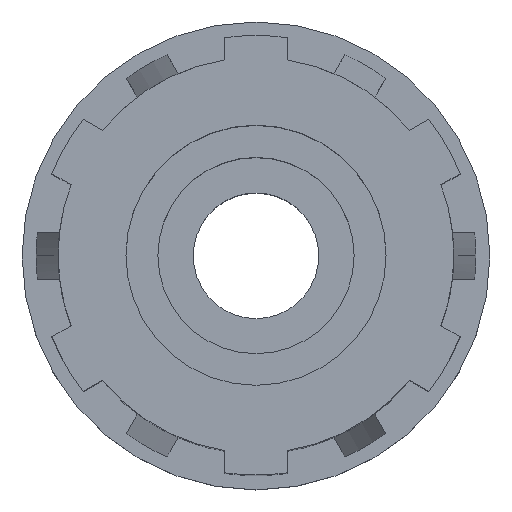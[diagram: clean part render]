
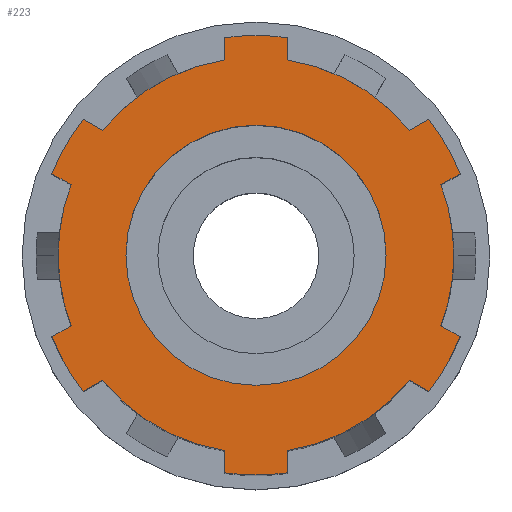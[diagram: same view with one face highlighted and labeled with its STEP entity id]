
A CAD part, top view. The second image highlights one B-rep face of the part: STEP entity #223.
In plain terms, the highlighted planar face has unit normal (0, 0, 1).
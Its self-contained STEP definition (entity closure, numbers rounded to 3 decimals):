
#223=ADVANCED_FACE('0:35',(#470,#471),#472,.T.);
#470=FACE_BOUND('',#761,.T.);
#471=FACE_OUTER_BOUND('',#762,.T.);
#472=PLANE('',#763);
#761=EDGE_LOOP('',(#1137,#1138));
#762=EDGE_LOOP('',(#1139,#1140,#1141,#1142,#1143,#1144,#1145,#1146,#1147,#1148,#1149,#1150,#1151,#1152,#1153,#1154,#1155,#1156,#1157,#1158,#1159,#1160,#1161,#1162,#1163,#1164));
#763=AXIS2_PLACEMENT_3D('',#1165,#1166,#1167);
#1137=ORIENTED_EDGE('',*,*,#1845,.T.);
#1138=ORIENTED_EDGE('',*,*,#1846,.T.);
#1139=ORIENTED_EDGE('',*,*,#1847,.F.);
#1140=ORIENTED_EDGE('',*,*,#1848,.T.);
#1141=ORIENTED_EDGE('',*,*,#1823,.T.);
#1142=ORIENTED_EDGE('',*,*,#1842,.T.);
#1143=ORIENTED_EDGE('',*,*,#1849,.F.);
#1144=ORIENTED_EDGE('',*,*,#1850,.T.);
#1145=ORIENTED_EDGE('',*,*,#1801,.T.);
#1146=ORIENTED_EDGE('',*,*,#1779,.T.);
#1147=ORIENTED_EDGE('',*,*,#1764,.F.);
#1148=ORIENTED_EDGE('',*,*,#1851,.T.);
#1149=ORIENTED_EDGE('',*,*,#1852,.T.);
#1150=ORIENTED_EDGE('',*,*,#1853,.T.);
#1151=ORIENTED_EDGE('',*,*,#1854,.T.);
#1152=ORIENTED_EDGE('',*,*,#1855,.F.);
#1153=ORIENTED_EDGE('',*,*,#1856,.T.);
#1154=ORIENTED_EDGE('',*,*,#1857,.T.);
#1155=ORIENTED_EDGE('',*,*,#1858,.T.);
#1156=ORIENTED_EDGE('',*,*,#1859,.F.);
#1157=ORIENTED_EDGE('',*,*,#1860,.T.);
#1158=ORIENTED_EDGE('',*,*,#1759,.T.);
#1159=ORIENTED_EDGE('',*,*,#1861,.T.);
#1160=ORIENTED_EDGE('',*,*,#1814,.F.);
#1161=ORIENTED_EDGE('',*,*,#1862,.T.);
#1162=ORIENTED_EDGE('',*,*,#1863,.T.);
#1163=ORIENTED_EDGE('',*,*,#1864,.T.);
#1164=ORIENTED_EDGE('',*,*,#1793,.T.);
#1165=CARTESIAN_POINT('',(522.864,476.726,25.0));
#1166=DIRECTION('',(0.0,0.0,1.0));
#1167=DIRECTION('',(1.0,-0.0,0.0));
#1759=EDGE_CURVE('',#2075,#2073,#2076,.T.);
#1764=EDGE_CURVE('',#2082,#2084,#2085,.T.);
#1779=EDGE_CURVE('',#2109,#2084,#2110,.T.);
#1793=EDGE_CURVE('',#2126,#2132,#2134,.T.);
#1801=EDGE_CURVE('',#2147,#2109,#2148,.T.);
#1814=EDGE_CURVE('',#2167,#2169,#2170,.T.);
#1823=EDGE_CURVE('',#2184,#2182,#2185,.T.);
#1842=EDGE_CURVE('',#2182,#2213,#2215,.T.);
#1845=EDGE_CURVE('',#2218,#2219,#2220,.F.);
#1846=EDGE_CURVE('',#2219,#2218,#2221,.F.);
#1847=EDGE_CURVE('',#2222,#2132,#2223,.T.);
#1848=EDGE_CURVE('',#2222,#2184,#2224,.F.);
#1849=EDGE_CURVE('',#2225,#2213,#2226,.T.);
#1850=EDGE_CURVE('',#2225,#2147,#2227,.F.);
#1851=EDGE_CURVE('',#2082,#2228,#2229,.F.);
#1852=EDGE_CURVE('',#2228,#2230,#2231,.T.);
#1853=EDGE_CURVE('',#2230,#2232,#2233,.T.);
#1854=EDGE_CURVE('',#2232,#2234,#2235,.T.);
#1855=EDGE_CURVE('',#2236,#2234,#2237,.T.);
#1856=EDGE_CURVE('',#2236,#2238,#2239,.F.);
#1857=EDGE_CURVE('',#2238,#2240,#2241,.T.);
#1858=EDGE_CURVE('',#2240,#2242,#2243,.T.);
#1859=EDGE_CURVE('',#2244,#2242,#2245,.T.);
#1860=EDGE_CURVE('',#2244,#2075,#2246,.F.);
#1861=EDGE_CURVE('',#2073,#2169,#2247,.T.);
#1862=EDGE_CURVE('',#2167,#2248,#2249,.F.);
#1863=EDGE_CURVE('',#2248,#2250,#2251,.T.);
#1864=EDGE_CURVE('',#2250,#2126,#2252,.T.);
#2073=VERTEX_POINT('',#2547);
#2075=VERTEX_POINT('',#2550);
#2076=LINE('',#2551,#2552);
#2082=VERTEX_POINT('',#2560);
#2084=VERTEX_POINT('',#2563);
#2085=LINE('',#2564,#2565);
#2109=VERTEX_POINT('',#2596);
#2110=CIRCLE('',#2597,12.6);
#2126=VERTEX_POINT('',#2633);
#2132=VERTEX_POINT('',#2641);
#2134=CIRCLE('',#2644,12.6);
#2147=VERTEX_POINT('',#2658);
#2148=LINE('',#2659,#2660);
#2167=VERTEX_POINT('',#2685);
#2169=VERTEX_POINT('',#2688);
#2170=LINE('',#2689,#2690);
#2182=VERTEX_POINT('',#2706);
#2184=VERTEX_POINT('',#2709);
#2185=LINE('',#2710,#2711);
#2213=VERTEX_POINT('',#2745);
#2215=CIRCLE('',#2748,12.6);
#2218=VERTEX_POINT('',#2751);
#2219=VERTEX_POINT('',#2752);
#2220=CIRCLE('',#2753,8.285);
#2221=CIRCLE('',#2754,8.285);
#2222=VERTEX_POINT('',#2755);
#2223=LINE('',#2756,#2757);
#2224=CIRCLE('',#2758,14.0);
#2225=VERTEX_POINT('',#2759);
#2226=LINE('',#2760,#2761);
#2227=CIRCLE('',#2762,14.0);
#2228=VERTEX_POINT('',#2763);
#2229=CIRCLE('',#2764,14.0);
#2230=VERTEX_POINT('',#2765);
#2231=LINE('',#2766,#2767);
#2232=VERTEX_POINT('',#2768);
#2233=CIRCLE('',#2769,12.6);
#2234=VERTEX_POINT('',#2770);
#2235=CIRCLE('',#2771,12.6);
#2236=VERTEX_POINT('',#2772);
#2237=LINE('',#2773,#2774);
#2238=VERTEX_POINT('',#2775);
#2239=CIRCLE('',#2776,14.0);
#2240=VERTEX_POINT('',#2777);
#2241=LINE('',#2778,#2779);
#2242=VERTEX_POINT('',#2780);
#2243=CIRCLE('',#2781,12.6);
#2244=VERTEX_POINT('',#2782);
#2245=LINE('',#2783,#2784);
#2246=CIRCLE('',#2785,14.0);
#2247=CIRCLE('',#2786,12.6);
#2248=VERTEX_POINT('',#2787);
#2249=CIRCLE('',#2788,14.0);
#2250=VERTEX_POINT('',#2789);
#2251=LINE('',#2790,#2791);
#2252=CIRCLE('',#2792,12.6);
#2547=CARTESIAN_POINT('',(520.864,489.167,25.0));
#2550=CARTESIAN_POINT('',(520.864,490.583,25.0));
#2551=CARTESIAN_POINT('',(520.864,490.077,25.0));
#2552=VECTOR('',#3174,0.001);
#2560=CARTESIAN_POINT('',(533.864,468.066,25.0));
#2563=CARTESIAN_POINT('',(532.638,468.774,25.0));
#2564=CARTESIAN_POINT('',(533.427,468.319,25.0));
#2565=VECTOR('',#3178,0.001);
#2596=CARTESIAN_POINT('',(524.864,464.286,25.0));
#2597=AXIS2_PLACEMENT_3D('',#3198,#3199,#3200);
#2633=CARTESIAN_POINT('',(510.264,476.726,25.0));
#2641=CARTESIAN_POINT('',(511.091,472.238,25.0));
#2644=AXIS2_PLACEMENT_3D('',#3218,#3219,#3220);
#2658=CARTESIAN_POINT('',(524.864,462.87,25.0));
#2659=CARTESIAN_POINT('',(524.864,463.375,25.0));
#2660=VECTOR('',#3234,0.001);
#2685=CARTESIAN_POINT('',(511.864,485.387,25.0));
#2688=CARTESIAN_POINT('',(513.091,484.679,25.0));
#2689=CARTESIAN_POINT('',(512.302,485.134,25.0));
#2690=VECTOR('',#3248,0.001);
#2706=CARTESIAN_POINT('',(513.091,468.774,25.0));
#2709=CARTESIAN_POINT('',(511.864,468.066,25.0));
#2710=CARTESIAN_POINT('',(512.302,468.319,25.0));
#2711=VECTOR('',#3257,0.001);
#2745=CARTESIAN_POINT('',(520.864,464.286,25.0));
#2748=AXIS2_PLACEMENT_3D('',#3286,#3287,#3288);
#2751=CARTESIAN_POINT('',(531.149,476.726,25.0));
#2752=CARTESIAN_POINT('',(514.579,476.726,25.0));
#2753=AXIS2_PLACEMENT_3D('',#3292,#3293,#3294);
#2754=AXIS2_PLACEMENT_3D('',#3295,#3296,#3297);
#2755=CARTESIAN_POINT('',(509.864,471.53,25.0));
#2756=CARTESIAN_POINT('',(510.302,471.783,25.0));
#2757=VECTOR('',#3298,0.001);
#2758=AXIS2_PLACEMENT_3D('',#3299,#3300,#3301);
#2759=CARTESIAN_POINT('',(520.864,462.87,25.0));
#2760=CARTESIAN_POINT('',(520.864,463.375,25.0));
#2761=VECTOR('',#3302,0.001);
#2762=AXIS2_PLACEMENT_3D('',#3303,#3304,#3305);
#2763=CARTESIAN_POINT('',(535.864,471.53,25.0));
#2764=AXIS2_PLACEMENT_3D('',#3306,#3307,#3308);
#2765=CARTESIAN_POINT('',(534.638,472.238,25.0));
#2766=CARTESIAN_POINT('',(535.427,471.783,25.0));
#2767=VECTOR('',#3309,0.001);
#2768=CARTESIAN_POINT('',(535.464,476.726,25.0));
#2769=AXIS2_PLACEMENT_3D('',#3310,#3311,#3312);
#2770=CARTESIAN_POINT('',(534.638,481.215,25.0));
#2771=AXIS2_PLACEMENT_3D('',#3313,#3314,#3315);
#2772=CARTESIAN_POINT('',(535.864,481.923,25.0));
#2773=CARTESIAN_POINT('',(535.427,481.67,25.0));
#2774=VECTOR('',#3316,0.001);
#2775=CARTESIAN_POINT('',(533.864,485.387,25.0));
#2776=AXIS2_PLACEMENT_3D('',#3317,#3318,#3319);
#2777=CARTESIAN_POINT('',(532.638,484.679,25.0));
#2778=CARTESIAN_POINT('',(533.427,485.134,25.0));
#2779=VECTOR('',#3320,0.001);
#2780=CARTESIAN_POINT('',(524.864,489.167,25.0));
#2781=AXIS2_PLACEMENT_3D('',#3321,#3322,#3323);
#2782=CARTESIAN_POINT('',(524.864,490.583,25.0));
#2783=CARTESIAN_POINT('',(524.864,490.077,25.0));
#2784=VECTOR('',#3324,0.001);
#2785=AXIS2_PLACEMENT_3D('',#3325,#3326,#3327);
#2786=AXIS2_PLACEMENT_3D('',#3328,#3329,#3330);
#2787=CARTESIAN_POINT('',(509.864,481.923,25.0));
#2788=AXIS2_PLACEMENT_3D('',#3331,#3332,#3333);
#2789=CARTESIAN_POINT('',(511.091,481.215,25.0));
#2790=CARTESIAN_POINT('',(510.302,481.67,25.0));
#2791=VECTOR('',#3334,0.001);
#2792=AXIS2_PLACEMENT_3D('',#3335,#3336,#3337);
#3174=DIRECTION('',(0.,-1.,0.0));
#3178=DIRECTION('',(-0.866,0.5,0.0));
#3198=CARTESIAN_POINT('',(522.864,476.726,25.0));
#3199=DIRECTION('',(0.0,0.0,1.0));
#3200=DIRECTION('',(1.0,0.0,0.0));
#3218=CARTESIAN_POINT('',(522.864,476.726,25.0));
#3219=DIRECTION('',(0.0,0.0,1.0));
#3220=DIRECTION('',(1.0,0.0,0.0));
#3234=DIRECTION('',(0.,1.,0.0));
#3248=DIRECTION('',(0.866,-0.5,0.0));
#3257=DIRECTION('',(0.866,0.5,0.0));
#3286=CARTESIAN_POINT('',(522.864,476.726,25.0));
#3287=DIRECTION('',(0.0,0.0,1.0));
#3288=DIRECTION('',(1.0,0.0,0.0));
#3292=CARTESIAN_POINT('',(522.864,476.726,25.0));
#3293=DIRECTION('',(0.0,0.0,1.0));
#3294=DIRECTION('',(1.0,0.0,0.0));
#3295=CARTESIAN_POINT('',(522.864,476.726,25.0));
#3296=DIRECTION('',(0.0,0.0,1.0));
#3297=DIRECTION('',(1.0,0.0,0.0));
#3298=DIRECTION('',(0.866,0.5,0.0));
#3299=CARTESIAN_POINT('',(522.864,476.726,25.0));
#3300=DIRECTION('',(-0.0,0.0,-1.0));
#3301=DIRECTION('',(-1.0,0.0,0.0));
#3302=DIRECTION('',(0.,1.,0.0));
#3303=CARTESIAN_POINT('',(522.864,476.726,25.0));
#3304=DIRECTION('',(-0.0,0.0,-1.0));
#3305=DIRECTION('',(-1.0,0.0,0.0));
#3306=CARTESIAN_POINT('',(522.864,476.726,25.0));
#3307=DIRECTION('',(-0.0,0.0,-1.0));
#3308=DIRECTION('',(-1.0,0.0,0.0));
#3309=DIRECTION('',(-0.866,0.5,0.0));
#3310=CARTESIAN_POINT('',(522.864,476.726,25.0));
#3311=DIRECTION('',(0.0,0.0,1.0));
#3312=DIRECTION('',(1.0,0.0,0.0));
#3313=CARTESIAN_POINT('',(522.864,476.726,25.0));
#3314=DIRECTION('',(0.0,0.0,1.0));
#3315=DIRECTION('',(1.0,0.0,0.0));
#3316=DIRECTION('',(-0.866,-0.5,0.0));
#3317=CARTESIAN_POINT('',(522.864,476.726,25.0));
#3318=DIRECTION('',(-0.0,0.0,-1.0));
#3319=DIRECTION('',(-1.0,0.0,0.0));
#3320=DIRECTION('',(-0.866,-0.5,0.0));
#3321=CARTESIAN_POINT('',(522.864,476.726,25.0));
#3322=DIRECTION('',(0.0,0.0,1.0));
#3323=DIRECTION('',(1.0,0.0,0.0));
#3324=DIRECTION('',(0.,-1.,0.0));
#3325=CARTESIAN_POINT('',(522.864,476.726,25.0));
#3326=DIRECTION('',(-0.0,0.0,-1.0));
#3327=DIRECTION('',(-1.0,0.0,0.0));
#3328=CARTESIAN_POINT('',(522.864,476.726,25.0));
#3329=DIRECTION('',(0.0,0.0,1.0));
#3330=DIRECTION('',(1.0,0.0,0.0));
#3331=CARTESIAN_POINT('',(522.864,476.726,25.0));
#3332=DIRECTION('',(-0.0,0.0,-1.0));
#3333=DIRECTION('',(-1.0,0.0,0.0));
#3334=DIRECTION('',(0.866,-0.5,0.0));
#3335=CARTESIAN_POINT('',(522.864,476.726,25.0));
#3336=DIRECTION('',(0.0,0.0,1.0));
#3337=DIRECTION('',(1.0,0.0,0.0));
